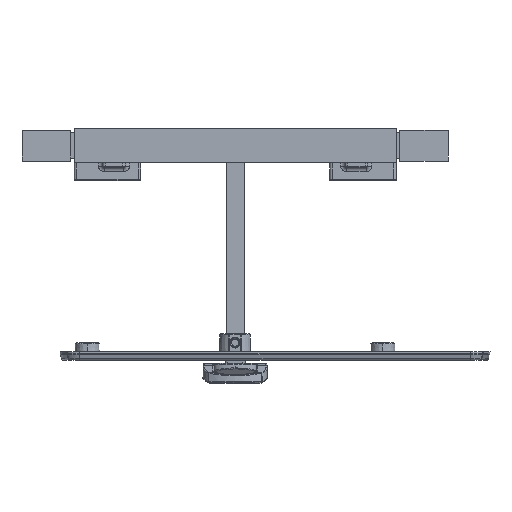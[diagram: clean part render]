
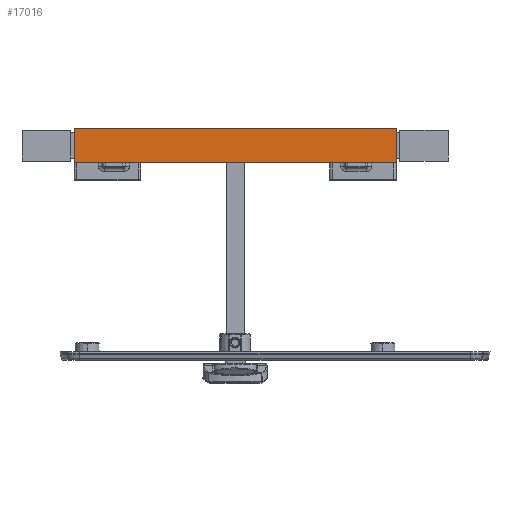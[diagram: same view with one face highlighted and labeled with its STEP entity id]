
A CAD part, left-side view. The second image highlights one B-rep face of the part: STEP entity #17016.
In plain terms, the highlighted planar face has unit normal (-1, 0, 0).
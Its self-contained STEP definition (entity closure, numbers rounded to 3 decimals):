
#182 = DIRECTION ( 'NONE',  ( 0., -1., 0. ) ) ;
#2233 = EDGE_CURVE ( 'NONE', #31397, #21779, #7980, .T. ) ;
#2724 = EDGE_CURVE ( 'NONE', #19569, #21779, #10242, .T. ) ;
#2900 = DIRECTION ( 'NONE',  ( 0., 0., -1. ) ) ;
#3112 = DIRECTION ( 'NONE',  ( 0., 0., -1. ) ) ;
#4167 = ORIENTED_EDGE ( 'NONE', *, *, #15939, .T. ) ;
#4516 = AXIS2_PLACEMENT_3D ( 'NONE', #20665, #25331, #28057 ) ;
#4666 = CARTESIAN_POINT ( 'NONE',  ( -16., 72.75, 7.75 ) ) ;
#5821 = LINE ( 'NONE', #18263, #22767 ) ;
#6379 = VECTOR ( 'NONE', #2900, 1000. ) ;
#7980 = LINE ( 'NONE', #25081, #20519 ) ;
#8232 = PLANE ( 'NONE',  #4516 ) ;
#10242 = LINE ( 'NONE', #29784, #6379 ) ;
#12456 = LINE ( 'NONE', #4666, #20784 ) ;
#12543 = ORIENTED_EDGE ( 'NONE', *, *, #2724, .F. ) ;
#15116 = CARTESIAN_POINT ( 'NONE',  ( -16., 72.75, -7.75 ) ) ;
#15240 = EDGE_CURVE ( 'NONE', #28510, #19569, #12456, .T. ) ;
#15406 = FACE_OUTER_BOUND ( 'NONE', #26316, .T. ) ;
#15939 = EDGE_CURVE ( 'NONE', #28510, #31397, #5821, .T. ) ;
#16024 = CARTESIAN_POINT ( 'NONE',  ( -16., 72.75, 7.75 ) ) ;
#17016 = ADVANCED_FACE ( 'NONE', ( #15406 ), #8232, .F. ) ;
#18263 = CARTESIAN_POINT ( 'NONE',  ( -16., 72.75, 7.75 ) ) ;
#19530 = ORIENTED_EDGE ( 'NONE', *, *, #15240, .F. ) ;
#19569 = VERTEX_POINT ( 'NONE', #25384 ) ;
#20258 = DIRECTION ( 'NONE',  ( 0., -1., 0. ) ) ;
#20519 = VECTOR ( 'NONE', #20258, 1000. ) ;
#20665 = CARTESIAN_POINT ( 'NONE',  ( -16., 72.75, 7.75 ) ) ;
#20784 = VECTOR ( 'NONE', #182, 1000. ) ;
#21688 = CARTESIAN_POINT ( 'NONE',  ( -16., -72.75, -7.75 ) ) ;
#21779 = VERTEX_POINT ( 'NONE', #21688 ) ;
#22767 = VECTOR ( 'NONE', #3112, 1000. ) ;
#25081 = CARTESIAN_POINT ( 'NONE',  ( -16., 72.75, -7.75 ) ) ;
#25331 = DIRECTION ( 'NONE',  ( 1., 0., 0. ) ) ;
#25384 = CARTESIAN_POINT ( 'NONE',  ( -16., -72.75, 7.75 ) ) ;
#26316 = EDGE_LOOP ( 'NONE', ( #26769, #12543, #19530, #4167 ) ) ;
#26769 = ORIENTED_EDGE ( 'NONE', *, *, #2233, .T. ) ;
#28057 = DIRECTION ( 'NONE',  ( 0., 1., 0. ) ) ;
#28510 = VERTEX_POINT ( 'NONE', #16024 ) ;
#29784 = CARTESIAN_POINT ( 'NONE',  ( -16., -72.75, 7.75 ) ) ;
#31397 = VERTEX_POINT ( 'NONE', #15116 ) ;
